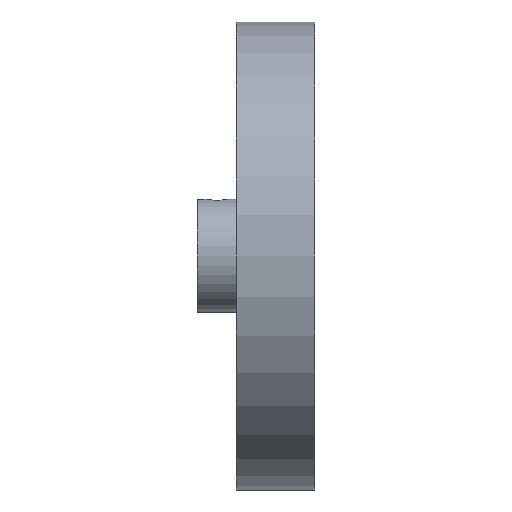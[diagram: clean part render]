
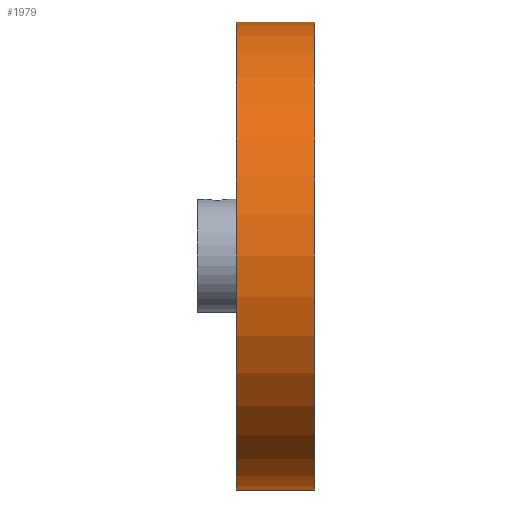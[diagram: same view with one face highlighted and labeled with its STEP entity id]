
A CAD part, left-side view. The second image highlights one B-rep face of the part: STEP entity #1979.
In plain terms, the highlighted cylindrical face has radius 76.2 mm (diameter 152.4 mm), a full revolution.
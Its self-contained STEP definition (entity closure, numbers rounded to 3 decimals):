
#267=FACE_OUTER_BOUND('',#361,.T.);
#361=EDGE_LOOP('',(#1620,#1621,#1622,#1623));
#547=LINE('',#3314,#693);
#693=VECTOR('',#2768,76.2);
#812=CIRCLE('',#2209,76.2);
#813=CIRCLE('',#2210,76.2);
#988=VERTEX_POINT('',#3311);
#989=VERTEX_POINT('',#3313);
#1259=EDGE_CURVE('',#988,#988,#812,.T.);
#1260=EDGE_CURVE('',#988,#989,#547,.T.);
#1261=EDGE_CURVE('',#989,#989,#813,.T.);
#1620=ORIENTED_EDGE('',*,*,#1259,.F.);
#1621=ORIENTED_EDGE('',*,*,#1260,.T.);
#1622=ORIENTED_EDGE('',*,*,#1261,.T.);
#1623=ORIENTED_EDGE('',*,*,#1260,.F.);
#1889=CYLINDRICAL_SURFACE('',#2208,76.2);
#1979=ADVANCED_FACE('',(#267),#1889,.T.);
#2208=AXIS2_PLACEMENT_3D('',#3310,#2764,#2765);
#2209=AXIS2_PLACEMENT_3D('',#3312,#2766,#2767);
#2210=AXIS2_PLACEMENT_3D('',#3315,#2769,#2770);
#2764=DIRECTION('center_axis',(0.,1.,0.));
#2765=DIRECTION('ref_axis',(-1.,0.,0.));
#2766=DIRECTION('center_axis',(0.,1.,0.));
#2767=DIRECTION('ref_axis',(-1.,0.,0.));
#2768=DIRECTION('',(0.,-1.,0.));
#2769=DIRECTION('center_axis',(0.,1.,0.));
#2770=DIRECTION('ref_axis',(-1.,0.,0.));
#3310=CARTESIAN_POINT('Origin',(0.,0.,0.));
#3311=CARTESIAN_POINT('',(76.2,25.4,0.));
#3312=CARTESIAN_POINT('Origin',(0.,25.4,0.));
#3313=CARTESIAN_POINT('',(76.2,0.,0.));
#3314=CARTESIAN_POINT('',(76.2,0.,0.));
#3315=CARTESIAN_POINT('Origin',(0.,0.,0.));
